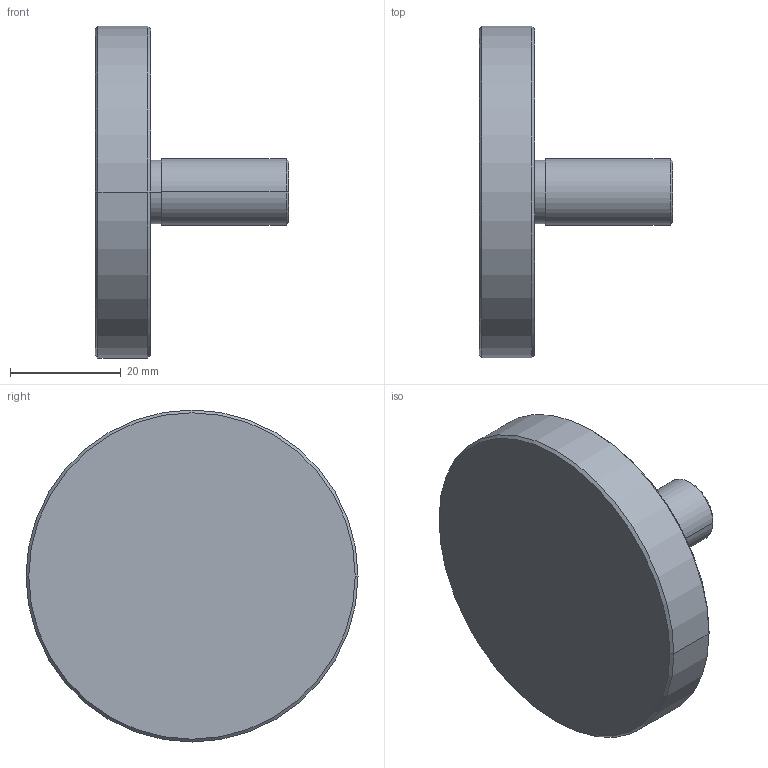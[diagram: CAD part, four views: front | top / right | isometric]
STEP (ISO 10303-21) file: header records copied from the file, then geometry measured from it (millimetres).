
FILE_DESCRIPTION(('CATIA V5 STEP Exchange'),'2;1');
FILE_NAME('D:\姚明阳\1、工装图纸\VDC压堵盖\工装数模和图纸\AGZ134.04_V1.pdf.stp','2025-04-25T02:10:31+00:00',('none'),('none'),'CATIA Version 5 Release 21 GA (IN-10)','CATIA V5 STEP AP214','none');
FILE_SCHEMA(('AUTOMOTIVE_DESIGN { 1 0 10303 214 1 1 1 1 }'));
Length unit declared in the file: millimetre
Products named in the file (1): AGZ134.04_V1
Bounding box: 35 x 60 x 60 mm (x, y, z)
Volume: 31031.9 mm3; surface area: 8375.2 mm2
Topology: 1 solids, 1 shells, 16 faces, 30 edges, 18 vertices
Faces by surface type: cone 6, cylinder 6, plane 4
Entity records: 400 total; most frequent: CARTESIAN_POINT 63, ORIENTED_EDGE 60, DIRECTION 58, AXIS2_PLACEMENT_3D 33, EDGE_CURVE 30, CIRCLE 18, EDGE_LOOP 18, VERTEX_POINT 18
